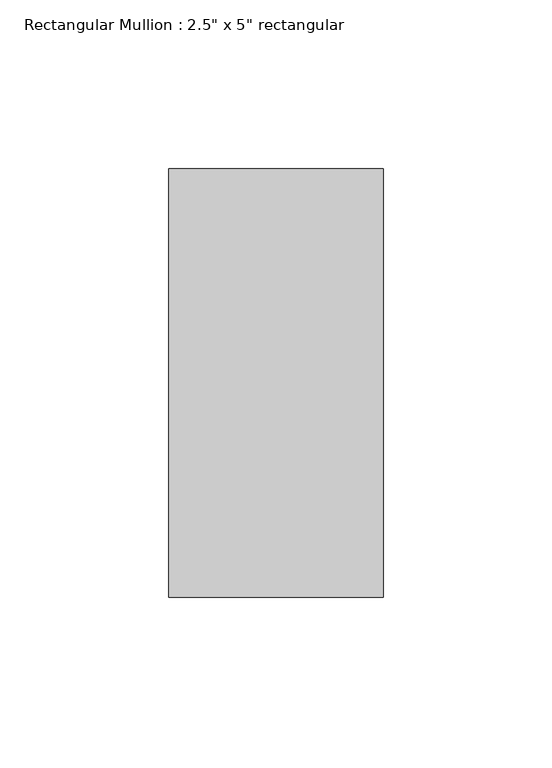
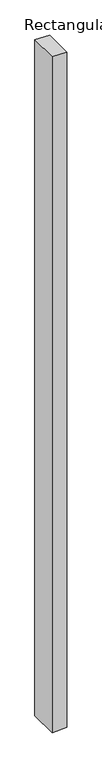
"""IFC4 building model written with IfcOpenShell, lengths in millimetres: member geometry."""

from ifc_helpers import new_model, si_unit, frame, origin, place, context, project, spatial, polyline, outline, extrude, source, transform, mapped, element, save


def member_328d3667(model_context):
    return source(origin(), model_context, "Body", "SweptSolid", [
        extrude(outline(polyline([(0.0, 0.0), (1.3793252, -63.5), (-3049.6579212, -63.5), (-3048.2794088, 0.0), (0.0, 0.0)])), frame((0.0, -63.5, 0.0), z_axis=(0.0, 1.0, 0.0), x_axis=(0.0, 0.0, 1.0)), (0.0, 0.0, 1.0), 127.0),
    ])


if __name__ == "__main__":
    model = new_model("IFC4")
    model_context = context("Model", 3, world=origin())
    ifc_project = project(units=[si_unit("LENGTHUNIT", "METRE", prefix="MILLI")], contexts=[model_context])
    site = spatial("IfcSite", under=ifc_project)
    building = spatial("IfcBuilding", under=site)
    placement = place(None, origin())
    member_shape = member_328d3667(model_context)
    element("IfcMember", 1, ObjectType="Rectangular Mullion : 2.5\" x 5\" rectangular", at=placement, inside=building, context=model_context, shape_type="MappedRepresentation", body=[
        mapped(member_shape, transform((0.0, 0.0, 0.0), x_axis=(1.0, 0.0, 0.0), y_axis=(0.0, 1.0, 0.0), z_axis=(0.0, 0.0, 1.0))),
    ])
    save(model, "model.ifc")
